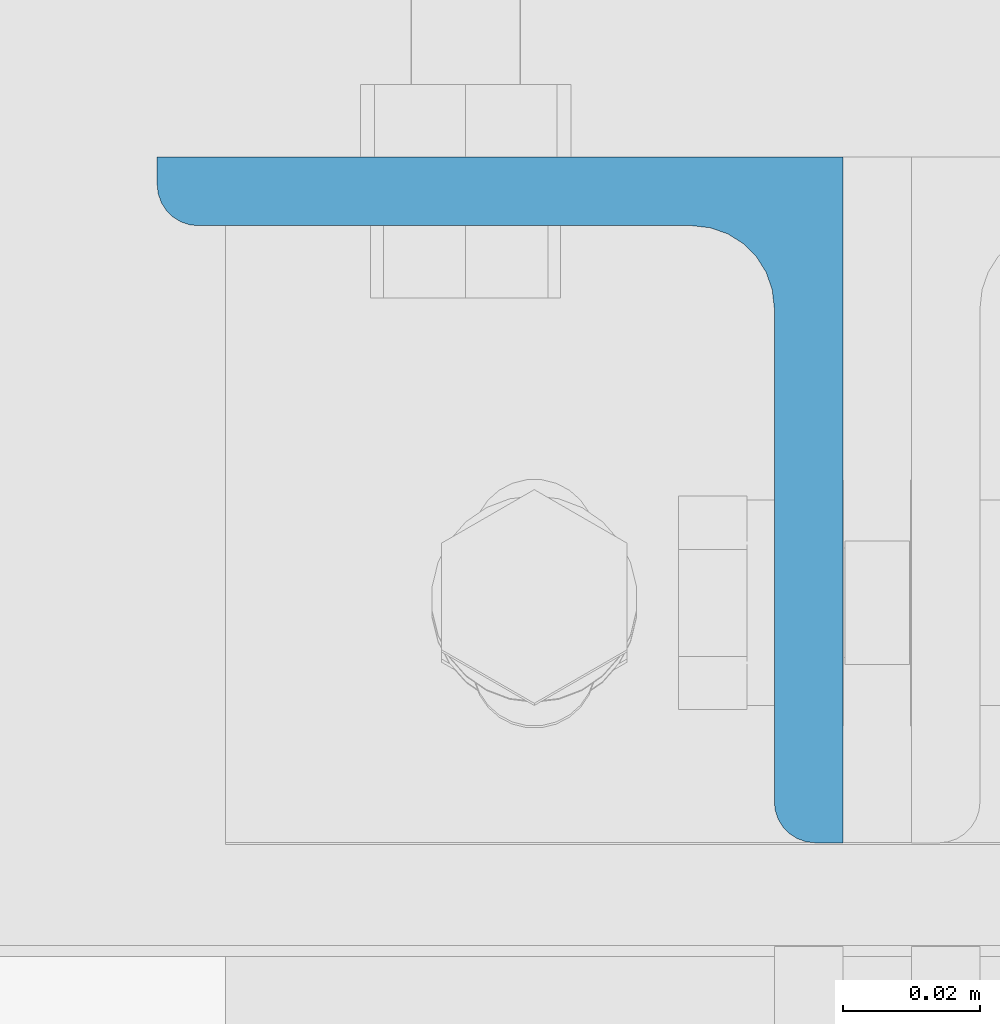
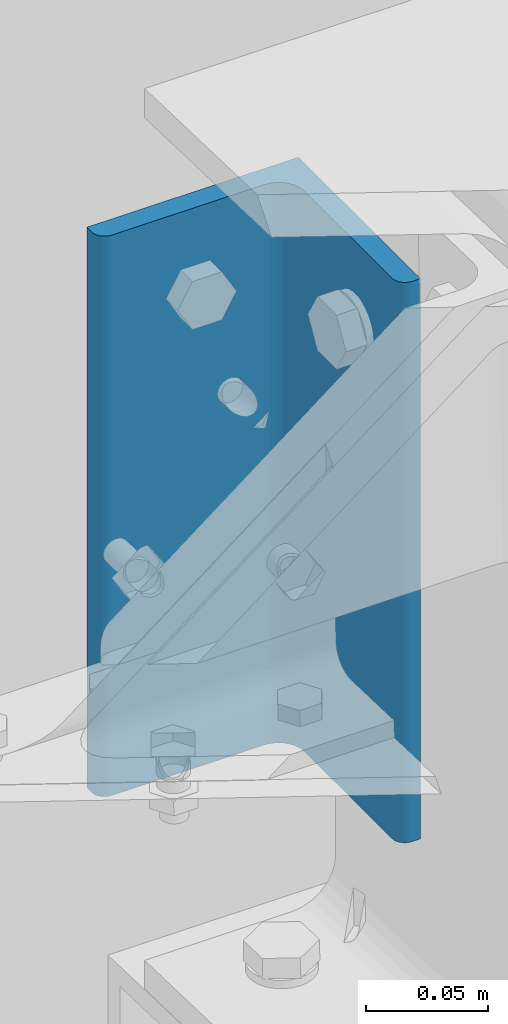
# One storey, part 26 of 362: 1 column, 1 element without a shape of its own.
"""IFC2X3 building model written with IfcOpenShell, lengths in millimetres."""

from ifc_helpers import new_model, si_unit, frame, origin_with_axes, origin_2d_with_axis, place, context, subcontext, project, spatial, l_section, extrude, material, type_object, element, aggregate, save


model = new_model("IFC2X3")

# Units and contexts
model_context = context("Model", 3, precision=1e-05, world=origin_with_axes())
body_context = subcontext(model_context, "Body", "Model", "MODEL_VIEW")
ifc_project = project(units=[si_unit("LENGTHUNIT", "METRE", prefix="MILLI"), si_unit("AREAUNIT", "SQUARE_METRE"), si_unit("VOLUMEUNIT", "CUBIC_METRE"), si_unit("MASSUNIT", "GRAM", prefix="KILO"), si_unit("TIMEUNIT", "SECOND"), si_unit("PLANEANGLEUNIT", "RADIAN"), si_unit("SOLIDANGLEUNIT", "STERADIAN"), si_unit("THERMODYNAMICTEMPERATUREUNIT", "DEGREE_CELSIUS"), si_unit("LUMINOUSINTENSITYUNIT", "LUMEN")], contexts=[model_context])

# Site, building, storey
site_placement = place(None, origin_with_axes())
site = spatial("IfcSite", under=ifc_project, at=site_placement, Name="Undefined", CompositionType="ELEMENT")
building_placement = place(site_placement, origin_with_axes())
building = spatial("IfcBuilding", under=site, at=building_placement, Name="Undefined", CompositionType="ELEMENT")
storey_placement = place(building_placement, origin_with_axes())
storey = spatial("IfcBuildingStorey", under=building, at=storey_placement, Name="Undefined", CompositionType="ELEMENT", Elevation=0.0)

# Assembly, column
assembly_placement = place(storey_placement, origin_with_axes())
assembly = element("IfcElementAssembly", 1, at=assembly_placement, inside=storey, AssemblyPlace="NOTDEFINED", PredefinedType="NOTDEFINED")
ifc_material = material(Name="Undefined/S235-E24")
column_type = type_object("IfcColumnType", Name="L100*10", PredefinedType="NOTDEFINED")
column_placement = place(assembly_placement, frame((8425.0, 15340.0, 7203.28139518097), z_axis=(0.0, 0.0, 1.0), x_axis=(-1.0, 0.0, 0.0)))
column = element("IfcColumn", 2, at=column_placement, type_object=column_type, material=ifc_material, Name="ATTACHE", ObjectType="L100*10", context=body_context, shape_type="SweptSolid", body=[
    extrude(l_section(Depth=100.0, Width=100.0, Thickness=10.0, FilletRadius=12.0, EdgeRadius=6.0, at=origin_2d_with_axis()), frame((0.0, 0.0, 280.0), z_axis=(0.0, 0.0, -1.0), x_axis=(0.0, 1.0, 0.0)), (0.0, 0.0, 1.0), 280.0),
])
aggregate(assembly, [column])

save(model, "model.ifc")
